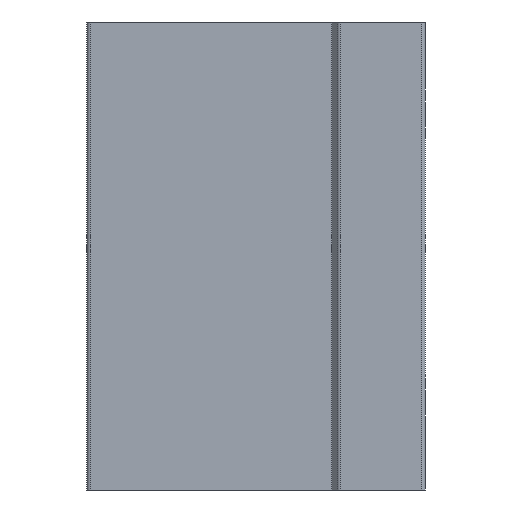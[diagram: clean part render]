
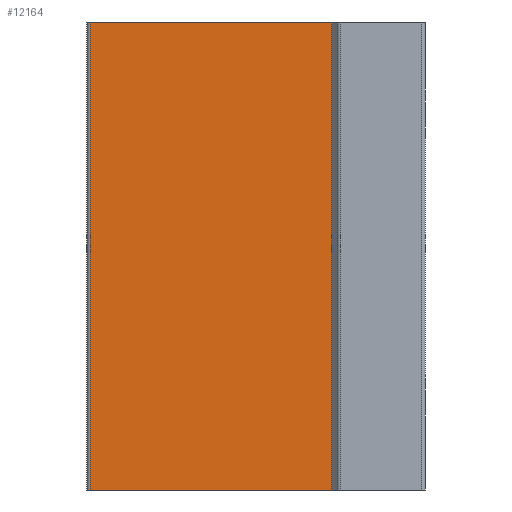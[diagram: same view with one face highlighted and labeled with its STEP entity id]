
A CAD part, left-side view. The second image highlights one B-rep face of the part: STEP entity #12164.
In plain terms, the highlighted planar face has unit normal (-1, 0, 0).
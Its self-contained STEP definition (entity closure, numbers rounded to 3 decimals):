
#2557 = CARTESIAN_POINT ( 'NONE',  ( -29., -14., 0. ) ) ;
#2739 = EDGE_CURVE ( 'NONE', #16557, #14086, #21416, .T. ) ;
#3048 = CARTESIAN_POINT ( 'NONE',  ( -29., 20., 65. ) ) ;
#3212 = DIRECTION ( 'NONE',  ( 0., 0., -1. ) ) ;
#3783 = CARTESIAN_POINT ( 'NONE',  ( -29., 20., 0. ) ) ;
#4131 = VERTEX_POINT ( 'NONE', #13291 ) ;
#6129 = EDGE_CURVE ( 'NONE', #4131, #16557, #20933, .T. ) ;
#7025 = VECTOR ( 'NONE', #16878, 1000. ) ;
#8718 = DIRECTION ( 'NONE',  ( 0., 0., -1. ) ) ;
#9339 = DIRECTION ( 'NONE',  ( 0., -1., 0. ) ) ;
#9469 = VECTOR ( 'NONE', #9339, 1000. ) ;
#9998 = EDGE_LOOP ( 'NONE', ( #12729, #18985, #17883, #17979 ) ) ;
#10081 = DIRECTION ( 'NONE',  ( 1., 0., 0. ) ) ;
#10129 = CARTESIAN_POINT ( 'NONE',  ( -29., -14., 65. ) ) ;
#11478 = VECTOR ( 'NONE', #3212, 1000. ) ;
#11711 = PLANE ( 'NONE',  #12170 ) ;
#11815 = FACE_OUTER_BOUND ( 'NONE', #9998, .T. ) ;
#11910 = LINE ( 'NONE', #3783, #7025 ) ;
#12164 = ADVANCED_FACE ( 'NONE', ( #11815 ), #11711, .F. ) ;
#12170 = AXIS2_PLACEMENT_3D ( 'NONE', #13336, #10081, #18313 ) ;
#12173 = LINE ( 'NONE', #20410, #17387 ) ;
#12729 = ORIENTED_EDGE ( 'NONE', *, *, #6129, .F. ) ;
#13291 = CARTESIAN_POINT ( 'NONE',  ( -29., 19.5, 65. ) ) ;
#13336 = CARTESIAN_POINT ( 'NONE',  ( -29., 20., 65. ) ) ;
#14086 = VERTEX_POINT ( 'NONE', #2557 ) ;
#16557 = VERTEX_POINT ( 'NONE', #17312 ) ;
#16610 = CARTESIAN_POINT ( 'NONE',  ( -29., 19.5, 0. ) ) ;
#16649 = EDGE_CURVE ( 'NONE', #18679, #14086, #11910, .T. ) ;
#16878 = DIRECTION ( 'NONE',  ( 0., -1., 0. ) ) ;
#17312 = CARTESIAN_POINT ( 'NONE',  ( -29., -14., 65. ) ) ;
#17387 = VECTOR ( 'NONE', #8718, 1000. ) ;
#17883 = ORIENTED_EDGE ( 'NONE', *, *, #16649, .T. ) ;
#17938 = EDGE_CURVE ( 'NONE', #4131, #18679, #12173, .T. ) ;
#17979 = ORIENTED_EDGE ( 'NONE', *, *, #2739, .F. ) ;
#18313 = DIRECTION ( 'NONE',  ( 0., 1., 0. ) ) ;
#18679 = VERTEX_POINT ( 'NONE', #16610 ) ;
#18985 = ORIENTED_EDGE ( 'NONE', *, *, #17938, .T. ) ;
#20410 = CARTESIAN_POINT ( 'NONE',  ( -29., 19.5, 65. ) ) ;
#20933 = LINE ( 'NONE', #3048, #9469 ) ;
#21416 = LINE ( 'NONE', #10129, #11478 ) ;
